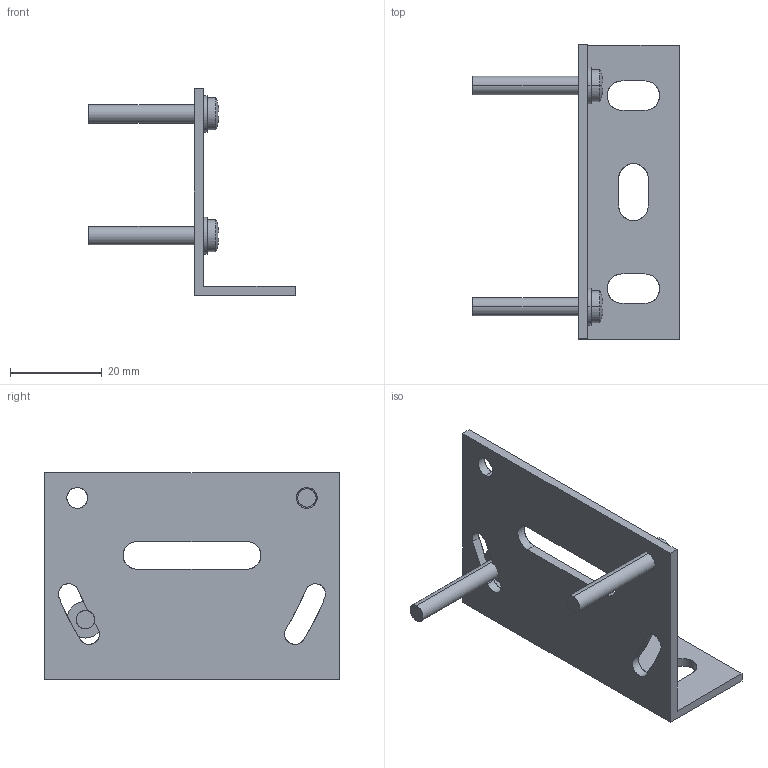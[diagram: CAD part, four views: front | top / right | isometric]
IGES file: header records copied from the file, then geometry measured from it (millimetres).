
Start section: SolidWorks IGES FILE using analytic representation for surfaces
Global section: file name: \\intra-srv04\開発データ\CAD_Data\CAD委員会\3D電子ｶﾀﾛｸﾞ\製品カタログ（新）\0_IGES\MS-NX5-3.IGS,41HSolidWorks 2004; native system: by SolidWorks Corporation; preprocessor: Version 5.3; author: yk0651; date: 051026.162452; units: millimetre
Bounding box: 45 x 64 x 45 mm (x, y, z)
Surface area: 9304.1 mm2 (no closed solid volume)
Topology: 0 solids, 0 shells, 88 faces, 1292 edges, 1292 vertices
Faces by surface type: bspline 48, revolution 40
